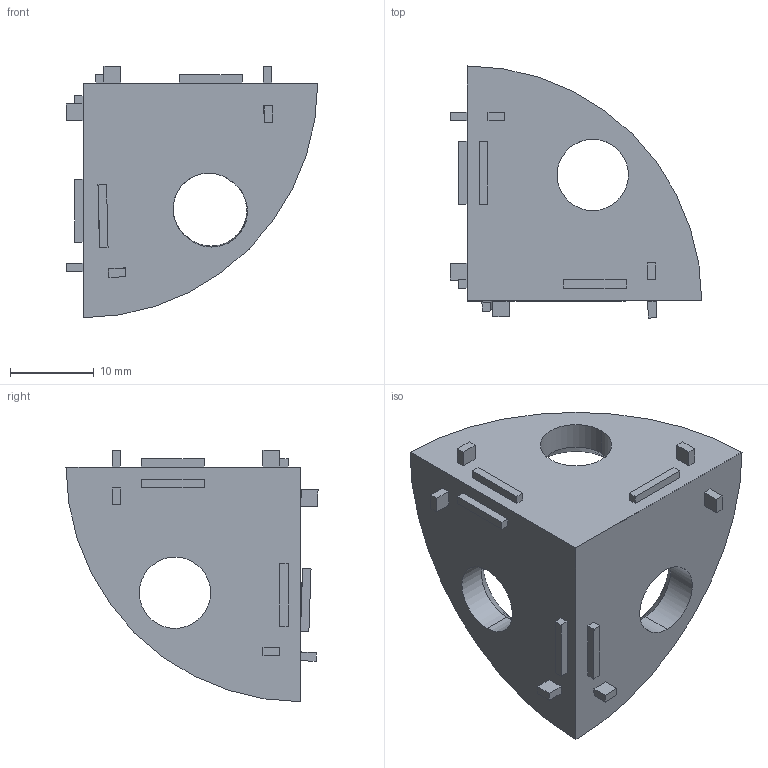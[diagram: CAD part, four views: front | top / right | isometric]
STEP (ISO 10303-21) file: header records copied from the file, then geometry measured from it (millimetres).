
FILE_DESCRIPTION (( 'STEP AP203' ), '1' );
FILE_NAME ('96-CE-3D3030-8.STEP', '2015-07-09T08:35:23', ( '' ), ( '' ), 'SwSTEP 2.0', 'SolidWorks 2013', '' );
FILE_SCHEMA (( 'CONFIG_CONTROL_DESIGN' ));
Length unit declared in the file: millimetre
Products named in the file (1): 96-CE-3D3030-8
Bounding box: 30 x 30.07 x 30 mm (x, y, z)
Volume: 6829.1 mm3; surface area: 3622.1 mm2
Topology: 1 solids, 1 shells, 78 faces, 198 edges, 130 vertices
Faces by surface type: plane 64, cylinder 7, cone 6, sphere 1
Entity records: 2466 total; most frequent: CARTESIAN_POINT 486, ORIENTED_EDGE 394, DIRECTION 375, EDGE_CURVE 197, VECTOR 157, LINE 157, VERTEX_POINT 130, AXIS2_PLACEMENT_3D 109
